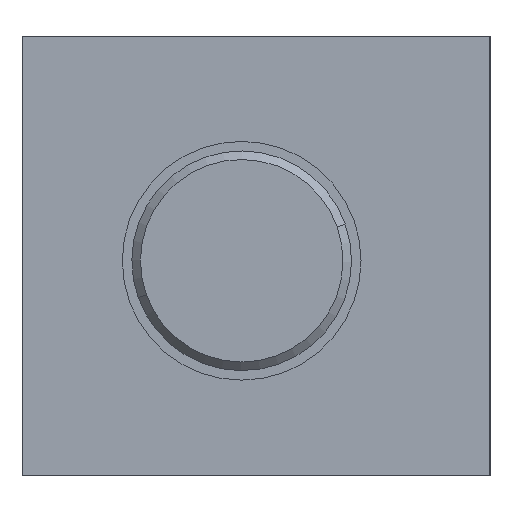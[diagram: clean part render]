
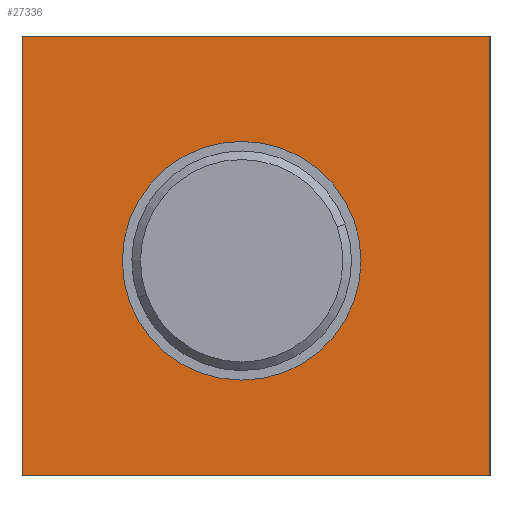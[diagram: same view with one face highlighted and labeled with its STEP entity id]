
A CAD part, left-side view. The second image highlights one B-rep face of the part: STEP entity #27336.
In plain terms, the highlighted planar face has unit normal (-1, 0, 0).
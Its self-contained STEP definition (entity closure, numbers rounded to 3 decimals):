
#24 = PLANE ( 'NONE',  #24713 ) ;
#663 = DIRECTION ( 'NONE',  ( 0., 0., 1. ) ) ;
#976 = ORIENTED_EDGE ( 'NONE', *, *, #4641, .F. ) ;
#1499 = EDGE_CURVE ( 'NONE', #13225, #4178, #18900, .T. ) ;
#3013 = LINE ( 'NONE', #5659, #28425 ) ;
#3019 = AXIS2_PLACEMENT_3D ( 'NONE', #20453, #6190, #22824 ) ;
#3208 = VERTEX_POINT ( 'NONE', #19782 ) ;
#3696 = CIRCLE ( 'NONE', #16913, 12.5 ) ;
#4178 = VERTEX_POINT ( 'NONE', #28455 ) ;
#4522 = EDGE_CURVE ( 'NONE', #4178, #15644, #3013, .T. ) ;
#4641 = EDGE_CURVE ( 'NONE', #19140, #13225, #25632, .T. ) ;
#5659 = CARTESIAN_POINT ( 'NONE',  ( 0., -24.5, -23. ) ) ;
#5796 = DIRECTION ( 'NONE',  ( 0., 0., -1. ) ) ;
#6190 = DIRECTION ( 'NONE',  ( -1., 0., 0. ) ) ;
#6832 = CARTESIAN_POINT ( 'NONE',  ( 0., 1.5, -0.5 ) ) ;
#7703 = FACE_BOUND ( 'NONE', #11627, .T. ) ;
#8066 = EDGE_CURVE ( 'NONE', #18920, #3208, #3696, .T. ) ;
#8170 = VECTOR ( 'NONE', #663, 1000. ) ;
#8380 = ORIENTED_EDGE ( 'NONE', *, *, #1499, .F. ) ;
#9555 = CIRCLE ( 'NONE', #3019, 12.5 ) ;
#9622 = CARTESIAN_POINT ( 'NONE',  ( 0., 0., 0. ) ) ;
#10542 = CARTESIAN_POINT ( 'NONE',  ( 0., -24.5, 23. ) ) ;
#11627 = EDGE_LOOP ( 'NONE', ( #18845, #29744 ) ) ;
#11766 = VECTOR ( 'NONE', #18403, 1000. ) ;
#11971 = DIRECTION ( 'NONE',  ( 0., 0., 1. ) ) ;
#12387 = CARTESIAN_POINT ( 'NONE',  ( 0., -11., -0.5 ) ) ;
#13225 = VERTEX_POINT ( 'NONE', #15330 ) ;
#13775 = DIRECTION ( 'NONE',  ( -1., 0., 0. ) ) ;
#14831 = LINE ( 'NONE', #14858, #8170 ) ;
#14858 = CARTESIAN_POINT ( 'NONE',  ( 0., 24.5, 23. ) ) ;
#15330 = CARTESIAN_POINT ( 'NONE',  ( 0., -24.5, 23. ) ) ;
#15644 = VERTEX_POINT ( 'NONE', #16679 ) ;
#16679 = CARTESIAN_POINT ( 'NONE',  ( 0., 24.5, -23. ) ) ;
#16913 = AXIS2_PLACEMENT_3D ( 'NONE', #6832, #13775, #29785 ) ;
#18362 = ORIENTED_EDGE ( 'NONE', *, *, #4522, .F. ) ;
#18403 = DIRECTION ( 'NONE',  ( 0., -1., 0. ) ) ;
#18845 = ORIENTED_EDGE ( 'NONE', *, *, #8066, .F. ) ;
#18900 = LINE ( 'NONE', #10542, #29079 ) ;
#18920 = VERTEX_POINT ( 'NONE', #12387 ) ;
#19140 = VERTEX_POINT ( 'NONE', #23568 ) ;
#19251 = FACE_OUTER_BOUND ( 'NONE', #20193, .T. ) ;
#19782 = CARTESIAN_POINT ( 'NONE',  ( 0., 14., -0.5 ) ) ;
#20193 = EDGE_LOOP ( 'NONE', ( #18362, #8380, #976, #26933 ) ) ;
#20321 = CARTESIAN_POINT ( 'NONE',  ( 0., -24.5, 23. ) ) ;
#20453 = CARTESIAN_POINT ( 'NONE',  ( 0., 1.5, -0.5 ) ) ;
#22824 = DIRECTION ( 'NONE',  ( 0., -1., 0. ) ) ;
#23568 = CARTESIAN_POINT ( 'NONE',  ( 0., 24.5, 23. ) ) ;
#24713 = AXIS2_PLACEMENT_3D ( 'NONE', #9622, #26129, #11971 ) ;
#25632 = LINE ( 'NONE', #20321, #11766 ) ;
#26129 = DIRECTION ( 'NONE',  ( -1., 0., 0. ) ) ;
#26790 = EDGE_CURVE ( 'NONE', #15644, #19140, #14831, .T. ) ;
#26885 = DIRECTION ( 'NONE',  ( 0., 1., 0. ) ) ;
#26933 = ORIENTED_EDGE ( 'NONE', *, *, #26790, .F. ) ;
#27336 = ADVANCED_FACE ( 'NONE', ( #19251, #7703 ), #24, .T. ) ;
#28425 = VECTOR ( 'NONE', #26885, 1000. ) ;
#28455 = CARTESIAN_POINT ( 'NONE',  ( 0., -24.5, -23. ) ) ;
#29079 = VECTOR ( 'NONE', #5796, 1000. ) ;
#29744 = ORIENTED_EDGE ( 'NONE', *, *, #30046, .F. ) ;
#29785 = DIRECTION ( 'NONE',  ( 0., -1., 0. ) ) ;
#30046 = EDGE_CURVE ( 'NONE', #3208, #18920, #9555, .T. ) ;
